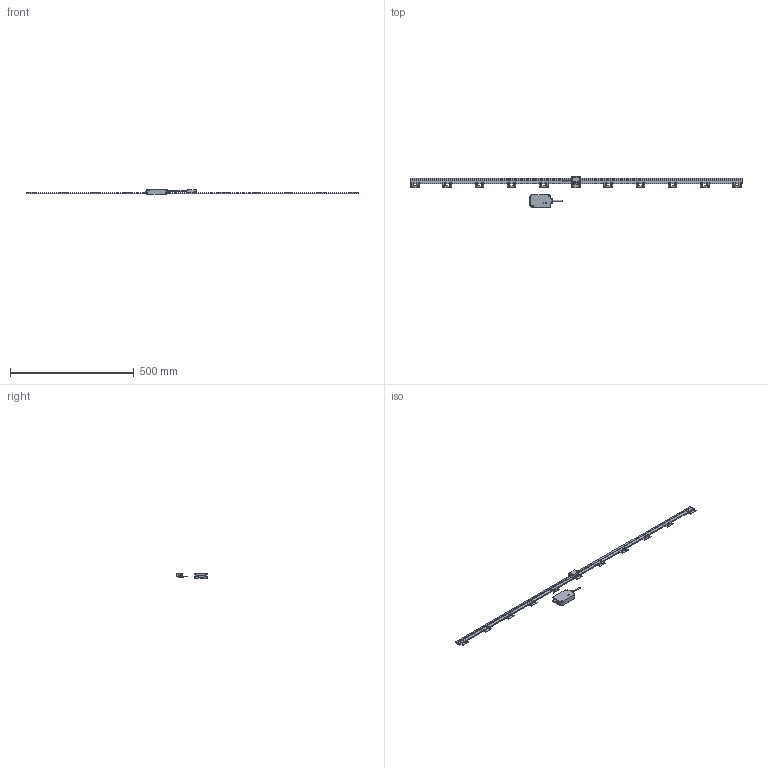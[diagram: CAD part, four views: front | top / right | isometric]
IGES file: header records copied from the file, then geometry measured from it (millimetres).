
Start section: Elysium IGES Interface
Global section: file name: 62H\\Utsu119s\kiyo_cad\data\3D\ST36\HP掲載用_201804\ST36-1300.igs; native system: Creo Elements/Direct Modeling 18.1B  29-Sep-2012; preprocessor: Creo Element/Direct IGES_3D V2.2; author: Unknown; organization: Unknown; date: 20180323.144059; units: millimetre
Bounding box: 1340 x 123 x 19.9 mm (x, y, z)
Volume: 231577.2 mm3; surface area: 103632.9 mm2
Topology: 3 solids, 5 shells, 669 faces, 1835 edges, 1199 vertices
Faces by surface type: bspline 669
